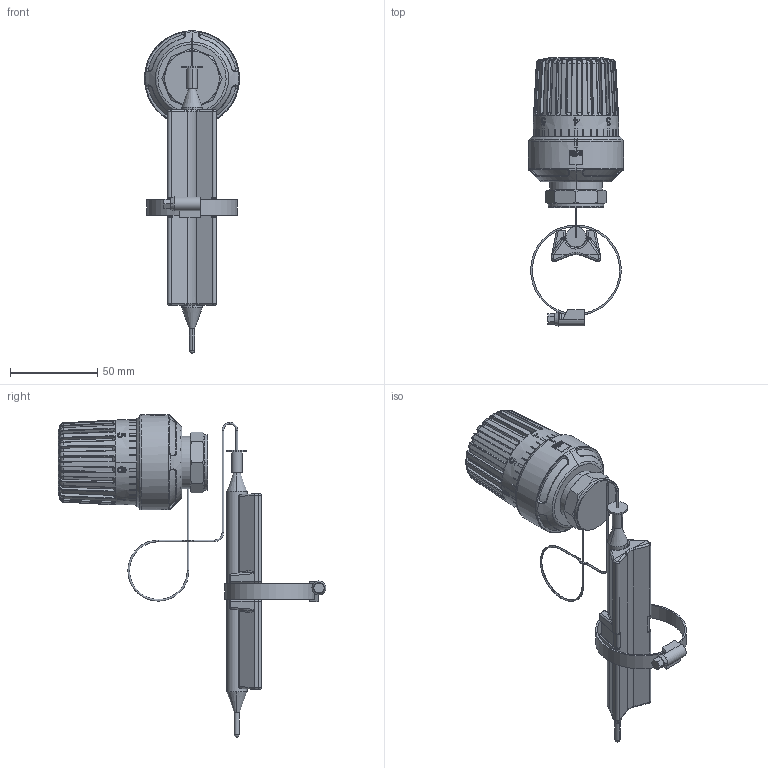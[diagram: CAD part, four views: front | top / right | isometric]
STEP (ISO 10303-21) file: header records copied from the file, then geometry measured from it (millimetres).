
FILE_DESCRIPTION (( 'STEP AP214' ), '1' );
FILE_NAME ('443001.STEP', '2021-07-07T12:23:18', ( '' ), ( '' ), 'SwSTEP 2.0', 'SolidWorks 2016', '' );
FILE_SCHEMA (( 'AUTOMOTIVE_DESIGN' ));
Products named in the file (1): 443001
Bounding box: 54.5 x 153.56 x 184.8 mm (x, y, z)
Volume: 183619.4 mm3; surface area: 38576.6 mm2
Topology: 3 solids, 3 shells, 2023 faces, 5633 edges, 3637 vertices
Faces by surface type: bspline 1000, plane 596, cone 217, cylinder 155, torus 53, sphere 2
Entity records: 93500 total; most frequent: CARTESIAN_POINT 51708, ORIENTED_EDGE 11244, EDGE_CURVE 5622, DIRECTION 4916, VERTEX_POINT 3635, B_SPLINE_CURVE_WITH_KNOTS 3157, EDGE_LOOP 2057, FACE_OUTER_BOUND 2023
